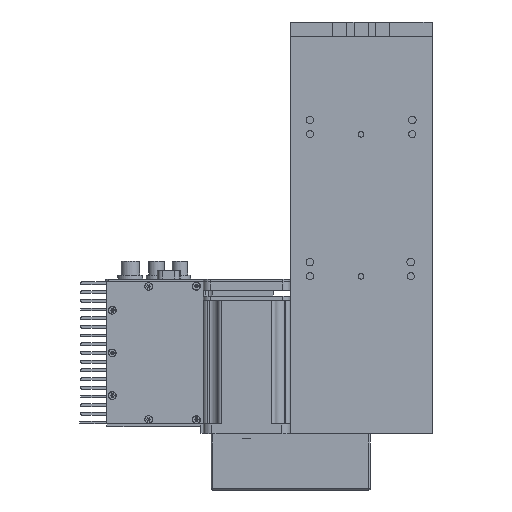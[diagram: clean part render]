
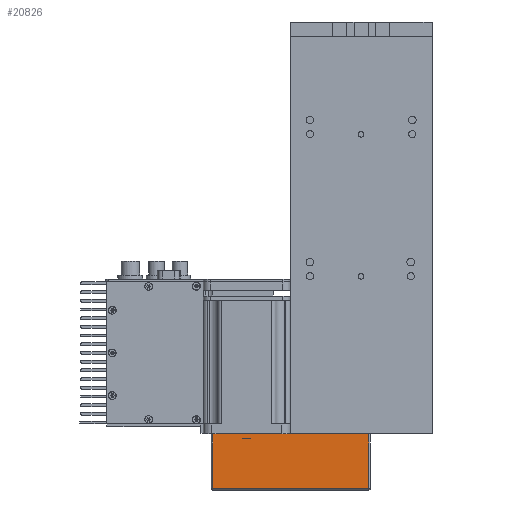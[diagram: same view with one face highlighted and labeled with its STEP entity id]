
A CAD part, front view. The second image highlights one B-rep face of the part: STEP entity #20826.
In plain terms, the highlighted planar face has unit normal (0, -1, 0).
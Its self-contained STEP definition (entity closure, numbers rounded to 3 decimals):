
#18787 = VERTEX_POINT ( 'NONE', #28453 ) ;
#18790 = VERTEX_POINT ( 'NONE', #28448 ) ;
#18824 = EDGE_CURVE ( 'NONE', #18790, #18787, #28527, .T. ) ;
#18825 = VERTEX_POINT ( 'NONE', #28582 ) ;
#18833 = VERTEX_POINT ( 'NONE', #28569 ) ;
#18868 = EDGE_CURVE ( 'NONE', #18833, #18825, #28647, .T. ) ;
#20717 = ORIENTED_EDGE ( 'NONE', *, *, #20797, .T. ) ;
#20781 = EDGE_CURVE ( 'NONE', #18787, #18833, #32188, .T. ) ;
#20797 = EDGE_CURVE ( 'NONE', #18790, #18825, #32241, .T. ) ;
#20798 = ORIENTED_EDGE ( 'NONE', *, *, #18824, .F. ) ;
#20800 = EDGE_LOOP ( 'NONE', ( #20798, #20717, #20827, #20806 ) ) ;
#20806 = ORIENTED_EDGE ( 'NONE', *, *, #20781, .F. ) ;
#20826 = ADVANCED_FACE ( 'NONE', ( #32306 ), #32290, .F. ) ;
#20827 = ORIENTED_EDGE ( 'NONE', *, *, #18868, .F. ) ;
#28448 = CARTESIAN_POINT ( 'NONE',  ( -49., -25., 0. ) ) ;
#28453 = CARTESIAN_POINT ( 'NONE',  ( -49., -25., 38.5 ) ) ;
#28526 = CARTESIAN_POINT ( 'NONE',  ( -49., -25., 39.5 ) ) ;
#28527 = LINE ( 'NONE', #28526, #28533 ) ;
#28533 = VECTOR ( 'NONE', #28578, 1000. ) ;
#28569 = CARTESIAN_POINT ( 'NONE',  ( 61., -25., 38.5 ) ) ;
#28578 = DIRECTION ( 'NONE',  ( 0., 0., 1. ) ) ;
#28582 = CARTESIAN_POINT ( 'NONE',  ( 61., -25., 0. ) ) ;
#28587 = CARTESIAN_POINT ( 'NONE',  ( 61., -25., 39.5 ) ) ;
#28632 = DIRECTION ( 'NONE',  ( 0., 0., -1. ) ) ;
#28633 = VECTOR ( 'NONE', #28632, 1000. ) ;
#28647 = LINE ( 'NONE', #28587, #28633 ) ;
#32131 = DIRECTION ( 'NONE',  ( 1., 0., 0. ) ) ;
#32132 = VECTOR ( 'NONE', #32131, 1000. ) ;
#32187 = CARTESIAN_POINT ( 'NONE',  ( -50., -25., 38.5 ) ) ;
#32188 = LINE ( 'NONE', #32187, #32132 ) ;
#32237 = DIRECTION ( 'NONE',  ( 1., 0., 0. ) ) ;
#32238 = VECTOR ( 'NONE', #32237, 1000. ) ;
#32240 = CARTESIAN_POINT ( 'NONE',  ( -50., -25., 0. ) ) ;
#32241 = LINE ( 'NONE', #32240, #32238 ) ;
#32285 = DIRECTION ( 'NONE',  ( 0., 0., 1. ) ) ;
#32286 = DIRECTION ( 'NONE',  ( 0., 1., 0. ) ) ;
#32290 = PLANE ( 'NONE',  #32294 ) ;
#32294 = AXIS2_PLACEMENT_3D ( 'NONE', #32298, #32286, #32285 ) ;
#32298 = CARTESIAN_POINT ( 'NONE',  ( -50., -25., 39.5 ) ) ;
#32306 = FACE_OUTER_BOUND ( 'NONE', #20800, .T. ) ;
